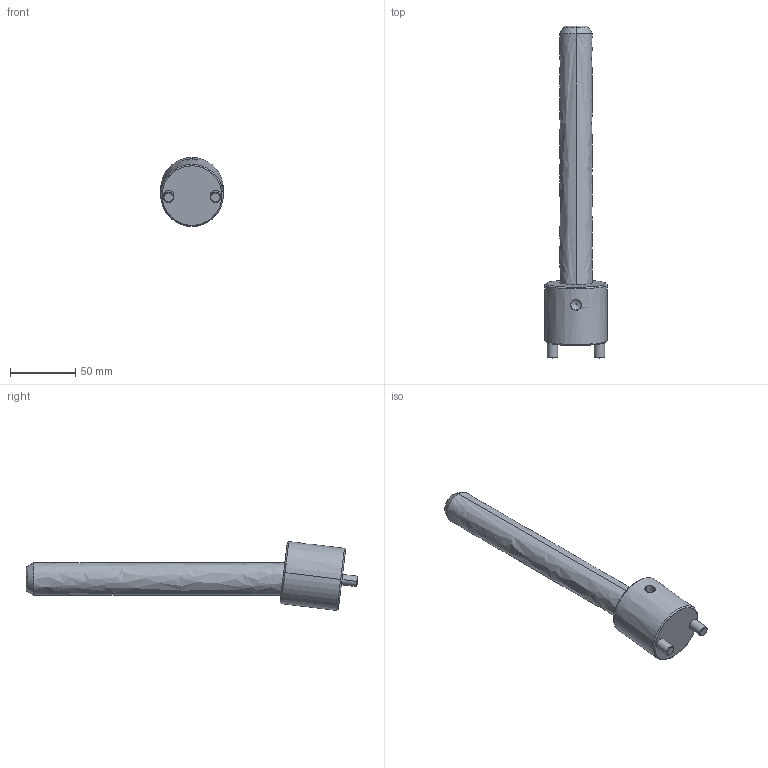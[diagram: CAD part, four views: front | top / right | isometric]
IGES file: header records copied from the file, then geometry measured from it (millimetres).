
Start section: START RECORD GO HERE.
Global section: file name: CI0725200.igs; native system: DASSAULT SYSTEMES CATIA V5 R20 - www.3ds.com; preprocessor: CATIA Version 5 Release 20 ; author: r.borello; organization: CFTORINO; date: 20190624.093022; units: millimetre
Bounding box: 48 x 254.61 x 52.88 mm (x, y, z)
Surface area: 33332.1 mm2 (no closed solid volume)
Topology: 0 solids, 0 shells, 39 faces, 162 edges, 160 vertices
Faces by surface type: revolution 32, plane 7
